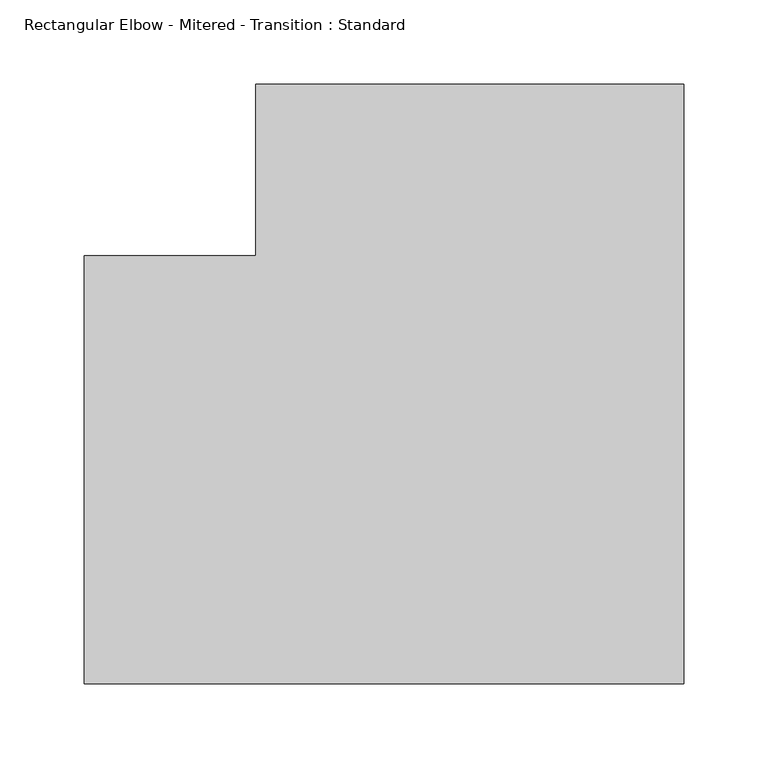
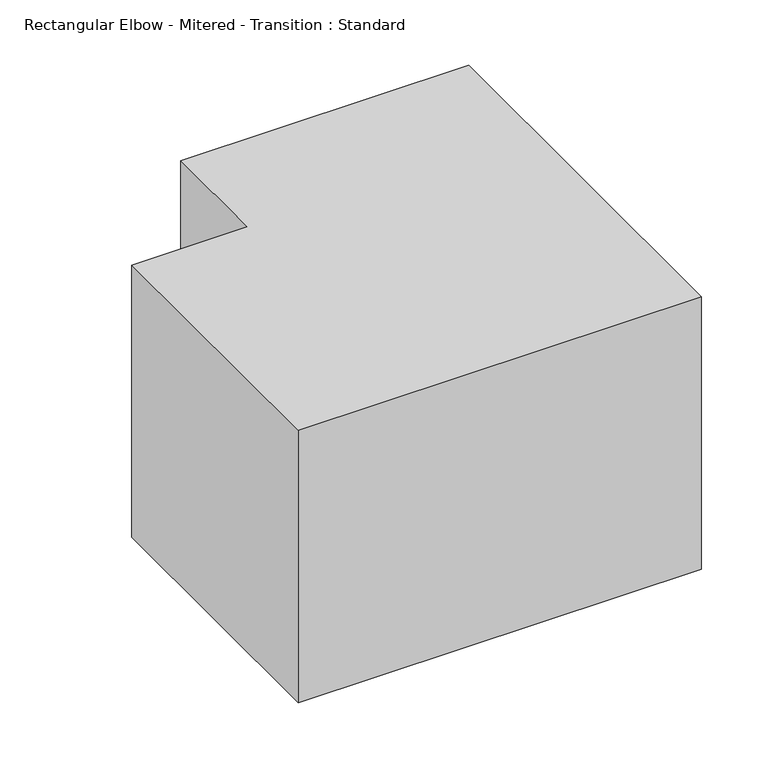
"""IFC4 building model written with IfcOpenShell, lengths in millimetres: duct fitting geometry, Rectangular Elbow - Mitered - Transition : Standard."""

from ifc_helpers import new_model, si_unit, frame, origin, place, context, project, spatial, polyline, outline, extrude, source, transform, mapped, element, save


def rectangular_elbow_mitered_transition_standard_c0ad29cc(model_context):
    return source(origin(), model_context, "Body", "SweptSolid", [
        extrude(outline(polyline([(-127.0, 127.0), (-127.0, 228.6), (127.0, 228.6), (127.0, -127.0), (-228.6, -127.0), (-228.6, 127.0), (-127.0, 127.0)])), frame((0.0, 0.0, -127.0), z_axis=(0.0, 0.0, 1.0), x_axis=(1.0, 0.0, 0.0)), (0.0, 0.0, 1.0), 254.0),
    ])


if __name__ == "__main__":
    model = new_model("IFC4")
    model_context = context("Model", 3, world=origin())
    ifc_project = project(units=[si_unit("LENGTHUNIT", "METRE", prefix="MILLI")], contexts=[model_context])
    site = spatial("IfcSite", under=ifc_project)
    building = spatial("IfcBuilding", under=site)
    placement = place(None, origin())
    rectangular_elbow_mitered_transition_standard_shape = rectangular_elbow_mitered_transition_standard_c0ad29cc(model_context)
    element("IfcDuctFitting", 1, ObjectType="Rectangular Elbow - Mitered - Transition : Standard", at=placement, inside=building, context=model_context, shape_type="MappedRepresentation", body=[
        mapped(rectangular_elbow_mitered_transition_standard_shape, transform((0.0, 0.0, 0.0), x_axis=(1.0, 0.0, 0.0), y_axis=(0.0, 1.0, 0.0), z_axis=(0.0, 0.0, 1.0))),
    ])
    save(model, "model.ifc")
